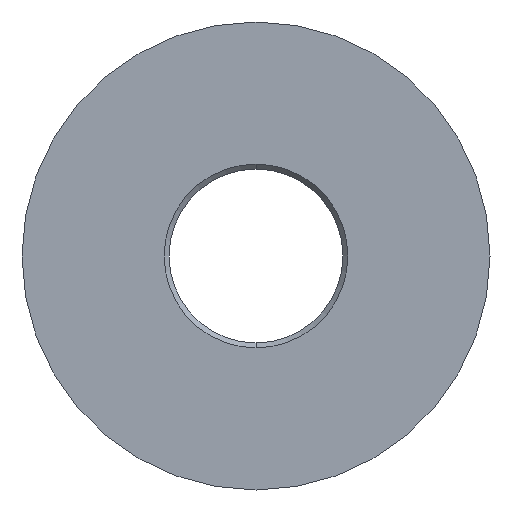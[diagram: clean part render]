
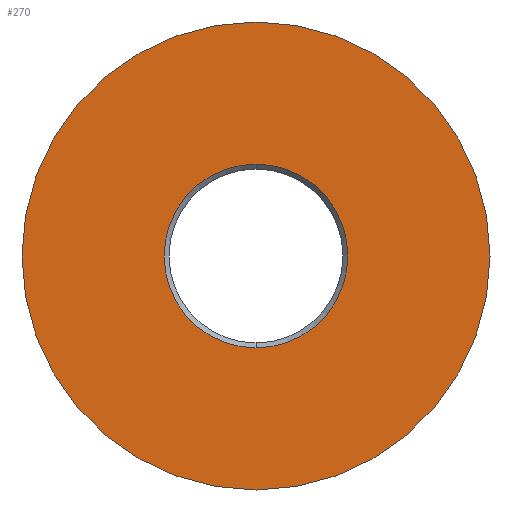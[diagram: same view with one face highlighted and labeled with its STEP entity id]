
A CAD part, front view. The second image highlights one B-rep face of the part: STEP entity #270.
In plain terms, the highlighted planar face has unit normal (0, -1, 0).
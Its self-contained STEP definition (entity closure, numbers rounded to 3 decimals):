
#21 = CARTESIAN_POINT ( 'NONE',  ( -2.75, -5., 0. ) ) ;
#29 = CARTESIAN_POINT ( 'NONE',  ( 0., -5., 0. ) ) ;
#35 = ORIENTED_EDGE ( 'NONE', *, *, #240, .T. ) ;
#52 = AXIS2_PLACEMENT_3D ( 'NONE', #21, #88, #381 ) ;
#63 = CARTESIAN_POINT ( 'NONE',  ( 0., -5., 0. ) ) ;
#74 = EDGE_LOOP ( 'NONE', ( #193, #297 ) ) ;
#81 = AXIS2_PLACEMENT_3D ( 'NONE', #392, #260, #170 ) ;
#88 = DIRECTION ( 'NONE',  ( 0., 1., 0. ) ) ;
#108 = EDGE_LOOP ( 'NONE', ( #363, #35 ) ) ;
#136 = CIRCLE ( 'NONE', #336, 7. ) ;
#139 = DIRECTION ( 'NONE',  ( 0., -1., 0. ) ) ;
#166 = VERTEX_POINT ( 'NONE', #356 ) ;
#170 = DIRECTION ( 'NONE',  ( 0., 0., -1. ) ) ;
#183 = DIRECTION ( 'NONE',  ( 0., -1., 0. ) ) ;
#193 = ORIENTED_EDGE ( 'NONE', *, *, #335, .F. ) ;
#195 = CIRCLE ( 'NONE', #264, 7. ) ;
#209 = DIRECTION ( 'NONE',  ( 0., -1., 0. ) ) ;
#214 = VERTEX_POINT ( 'NONE', #345 ) ;
#215 = PLANE ( 'NONE',  #52 ) ;
#220 = CIRCLE ( 'NONE', #253, 2.75 ) ;
#240 = EDGE_CURVE ( 'NONE', #327, #307, #136, .T. ) ;
#253 = AXIS2_PLACEMENT_3D ( 'NONE', #63, #209, #314 ) ;
#255 = FACE_BOUND ( 'NONE', #74, .T. ) ;
#260 = DIRECTION ( 'NONE',  ( 0., -1., 0. ) ) ;
#264 = AXIS2_PLACEMENT_3D ( 'NONE', #29, #183, #338 ) ;
#265 = DIRECTION ( 'NONE',  ( 0., 0., -1. ) ) ;
#268 = CARTESIAN_POINT ( 'NONE',  ( 0., -5., 0. ) ) ;
#270 = ADVANCED_FACE ( 'NONE', ( #255, #320 ), #215, .F. ) ;
#296 = CARTESIAN_POINT ( 'NONE',  ( 0., -5., 7. ) ) ;
#297 = ORIENTED_EDGE ( 'NONE', *, *, #352, .F. ) ;
#307 = VERTEX_POINT ( 'NONE', #362 ) ;
#311 = EDGE_CURVE ( 'NONE', #307, #327, #195, .T. ) ;
#314 = DIRECTION ( 'NONE',  ( 0., 0., -1. ) ) ;
#320 = FACE_OUTER_BOUND ( 'NONE', #108, .T. ) ;
#327 = VERTEX_POINT ( 'NONE', #296 ) ;
#328 = CIRCLE ( 'NONE', #81, 2.75 ) ;
#335 = EDGE_CURVE ( 'NONE', #166, #214, #328, .T. ) ;
#336 = AXIS2_PLACEMENT_3D ( 'NONE', #268, #139, #265 ) ;
#338 = DIRECTION ( 'NONE',  ( 0., 0., -1. ) ) ;
#345 = CARTESIAN_POINT ( 'NONE',  ( 0., -5., 2.75 ) ) ;
#352 = EDGE_CURVE ( 'NONE', #214, #166, #220, .T. ) ;
#356 = CARTESIAN_POINT ( 'NONE',  ( 0., -5., -2.75 ) ) ;
#362 = CARTESIAN_POINT ( 'NONE',  ( 0., -5., -7. ) ) ;
#363 = ORIENTED_EDGE ( 'NONE', *, *, #311, .T. ) ;
#381 = DIRECTION ( 'NONE',  ( 0., 0., 1. ) ) ;
#392 = CARTESIAN_POINT ( 'NONE',  ( 0., -5., 0. ) ) ;
